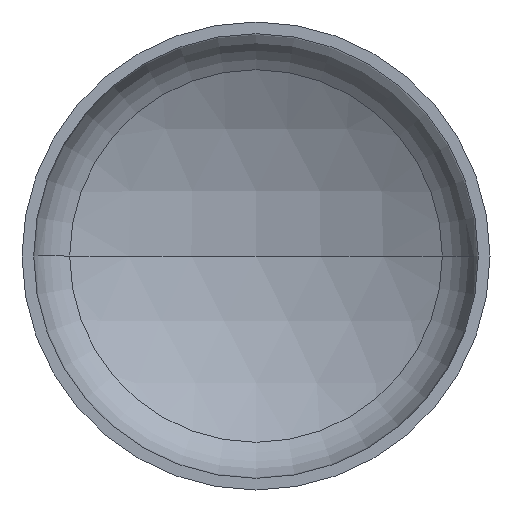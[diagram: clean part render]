
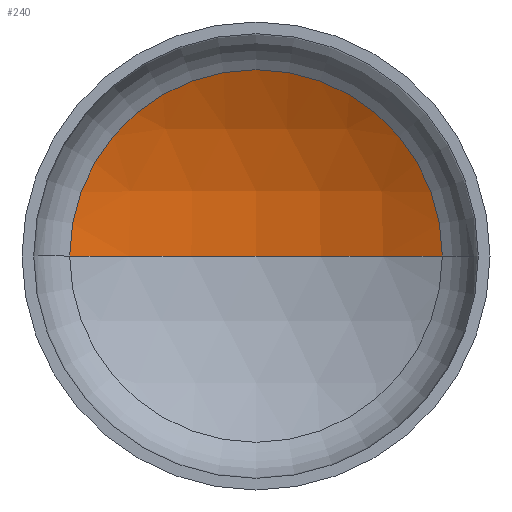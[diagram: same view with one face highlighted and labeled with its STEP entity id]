
A CAD part, front view. The second image highlights one B-rep face of the part: STEP entity #240.
In plain terms, the highlighted spherical face has radius 1280 mm.
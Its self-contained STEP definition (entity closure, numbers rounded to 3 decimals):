
#1 = ORIENTED_EDGE ( 'NONE', *, *, #210, .T. ) ;
#4 = CARTESIAN_POINT ( 'NONE',  ( 0., -777.775, 0. ) ) ;
#15 = CARTESIAN_POINT ( 'NONE',  ( 0., -777.775, 0. ) ) ;
#17 = VERTEX_POINT ( 'NONE', #260 ) ;
#22 = EDGE_LOOP ( 'NONE', ( #133, #1, #111 ) ) ;
#23 = DIRECTION ( 'NONE',  ( 1., 0., 0. ) ) ;
#25 = DIRECTION ( 'NONE',  ( 0., 0., 1. ) ) ;
#27 = VERTEX_POINT ( 'NONE', #259 ) ;
#42 = AXIS2_PLACEMENT_3D ( 'NONE', #15, #218, #191 ) ;
#47 = AXIS2_PLACEMENT_3D ( 'NONE', #4, #25, #23 ) ;
#50 = AXIS2_PLACEMENT_3D ( 'NONE', #279, #251, #247 ) ;
#56 = AXIS2_PLACEMENT_3D ( 'NONE', #266, #263, #261 ) ;
#65 = FACE_OUTER_BOUND ( 'NONE', #22, .T. ) ;
#105 = CIRCLE ( 'NONE', #56, 636.908 ) ;
#111 = ORIENTED_EDGE ( 'NONE', *, *, #202, .T. ) ;
#119 = VERTEX_POINT ( 'NONE', #303 ) ;
#133 = ORIENTED_EDGE ( 'NONE', *, *, #220, .F. ) ;
#190 = CIRCLE ( 'NONE', #47, 1280. ) ;
#191 = DIRECTION ( 'NONE',  ( -1., 0., 0. ) ) ;
#202 = EDGE_CURVE ( 'NONE', #119, #17, #105, .T. ) ;
#210 = EDGE_CURVE ( 'NONE', #27, #119, #379, .T. ) ;
#218 = DIRECTION ( 'NONE',  ( 0., 0., -1. ) ) ;
#220 = EDGE_CURVE ( 'NONE', #27, #17, #190, .T. ) ;
#240 = ADVANCED_FACE ( 'NONE', ( #65 ), #372, .F. ) ;
#247 = DIRECTION ( 'NONE',  ( -1., 0., 0. ) ) ;
#251 = DIRECTION ( 'NONE',  ( 0., 0., -1. ) ) ;
#259 = CARTESIAN_POINT ( 'NONE',  ( 0., 502.225, 0. ) ) ;
#260 = CARTESIAN_POINT ( 'NONE',  ( -636.908, 332.517, 0. ) ) ;
#261 = DIRECTION ( 'NONE',  ( 1., 0., 0. ) ) ;
#263 = DIRECTION ( 'NONE',  ( 0., -1., 0. ) ) ;
#266 = CARTESIAN_POINT ( 'NONE',  ( 0., 332.517, 0. ) ) ;
#279 = CARTESIAN_POINT ( 'NONE',  ( 0., -777.775, 0. ) ) ;
#303 = CARTESIAN_POINT ( 'NONE',  ( 636.908, 332.517, 0. ) ) ;
#372 = SPHERICAL_SURFACE ( 'NONE', #42, 1280. ) ;
#379 = CIRCLE ( 'NONE', #50, 1280. ) ;
